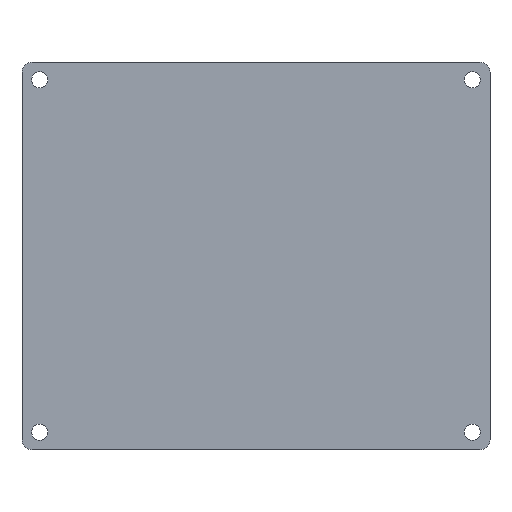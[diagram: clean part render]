
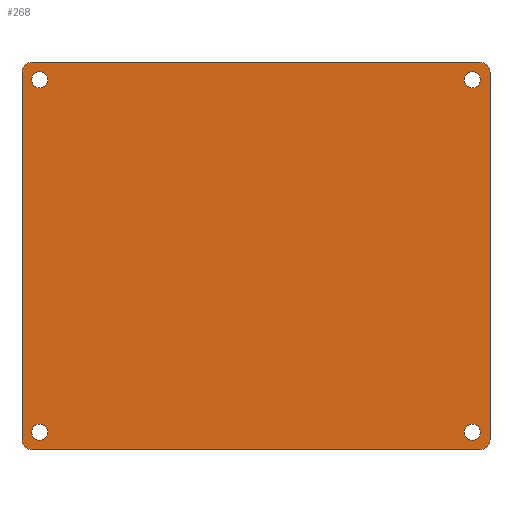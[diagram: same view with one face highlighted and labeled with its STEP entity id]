
A CAD part, front view. The second image highlights one B-rep face of the part: STEP entity #268.
In plain terms, the highlighted planar face has unit normal (0, -1, 0).
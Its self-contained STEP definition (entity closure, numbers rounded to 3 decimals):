
#122=FACE_BOUND('',#824,.T.);
#123=FACE_BOUND('',#825,.T.);
#124=FACE_BOUND('',#826,.T.);
#125=FACE_BOUND('',#827,.T.);
#126=FACE_BOUND('',#828,.T.);
#161=PLANE('',#4155);
#268=ADVANCED_FACE('NONE',(#122,#123,#124,#125,#126),#161,.T.);
#824=EDGE_LOOP('',(#1459,#1460));
#825=EDGE_LOOP('',(#1461,#1462));
#826=EDGE_LOOP('',(#1463,#1464));
#827=EDGE_LOOP('',(#1465,#1466));
#828=EDGE_LOOP('',(#1467,#1468,#1469,#1470,#1471,#1472,#1473,#1474));
#1055=CIRCLE('',#4089,1.6);
#1057=CIRCLE('',#4092,1.6);
#1059=CIRCLE('',#4095,1.6);
#1061=CIRCLE('',#4098,1.6);
#1095=CIRCLE('',#4147,1.6);
#1096=CIRCLE('',#4148,1.6);
#1097=CIRCLE('',#4149,1.6);
#1098=CIRCLE('',#4150,1.6);
#1099=CIRCLE('',#4151,2.);
#1100=CIRCLE('',#4152,2.);
#1101=CIRCLE('',#4153,2.);
#1102=CIRCLE('',#4154,2.);
#1459=ORIENTED_EDGE('',*,*,#2945,.T.);
#1460=ORIENTED_EDGE('',*,*,#2798,.T.);
#1461=ORIENTED_EDGE('',*,*,#2946,.T.);
#1462=ORIENTED_EDGE('',*,*,#2802,.T.);
#1463=ORIENTED_EDGE('',*,*,#2947,.T.);
#1464=ORIENTED_EDGE('',*,*,#2806,.T.);
#1465=ORIENTED_EDGE('',*,*,#2948,.T.);
#1466=ORIENTED_EDGE('',*,*,#2810,.T.);
#1467=ORIENTED_EDGE('',*,*,#2933,.F.);
#1468=ORIENTED_EDGE('',*,*,#2949,.T.);
#1469=ORIENTED_EDGE('',*,*,#2924,.F.);
#1470=ORIENTED_EDGE('',*,*,#2950,.T.);
#1471=ORIENTED_EDGE('',*,*,#2909,.F.);
#1472=ORIENTED_EDGE('',*,*,#2951,.T.);
#1473=ORIENTED_EDGE('',*,*,#2940,.F.);
#1474=ORIENTED_EDGE('',*,*,#2952,.T.);
#2421=VERTEX_POINT('',#5819);
#2422=VERTEX_POINT('',#5820);
#2425=VERTEX_POINT('',#5828);
#2426=VERTEX_POINT('',#5829);
#2429=VERTEX_POINT('',#5837);
#2430=VERTEX_POINT('',#5838);
#2433=VERTEX_POINT('',#5846);
#2434=VERTEX_POINT('',#5847);
#2521=VERTEX_POINT('',#6042);
#2522=VERTEX_POINT('',#6044);
#2531=VERTEX_POINT('',#6068);
#2532=VERTEX_POINT('',#6070);
#2539=VERTEX_POINT('',#6086);
#2540=VERTEX_POINT('',#6088);
#2545=VERTEX_POINT('',#6100);
#2546=VERTEX_POINT('',#6102);
#2798=EDGE_CURVE('NONE',#2421,#2422,#1055,.T.);
#2802=EDGE_CURVE('NONE',#2425,#2426,#1057,.T.);
#2806=EDGE_CURVE('NONE',#2429,#2430,#1059,.T.);
#2810=EDGE_CURVE('NONE',#2433,#2434,#1061,.T.);
#2909=EDGE_CURVE('NONE',#2521,#2522,#3433,.T.);
#2924=EDGE_CURVE('NONE',#2531,#2532,#3446,.T.);
#2933=EDGE_CURVE('NONE',#2539,#2540,#3455,.T.);
#2940=EDGE_CURVE('NONE',#2545,#2546,#3462,.T.);
#2945=EDGE_CURVE('NONE',#2422,#2421,#1095,.T.);
#2946=EDGE_CURVE('NONE',#2426,#2425,#1096,.T.);
#2947=EDGE_CURVE('NONE',#2430,#2429,#1097,.T.);
#2948=EDGE_CURVE('NONE',#2434,#2433,#1098,.T.);
#2949=EDGE_CURVE('NONE',#2539,#2532,#1099,.T.);
#2950=EDGE_CURVE('NONE',#2531,#2522,#1100,.T.);
#2951=EDGE_CURVE('NONE',#2521,#2546,#1101,.T.);
#2952=EDGE_CURVE('NONE',#2545,#2540,#1102,.T.);
#3433=LINE('',#6043,#3797);
#3446=LINE('',#6069,#3810);
#3455=LINE('',#6087,#3819);
#3462=LINE('',#6101,#3826);
#3797=VECTOR('',#4742,1.);
#3810=VECTOR('',#4761,1.);
#3819=VECTOR('',#4772,1.);
#3826=VECTOR('',#4781,1.);
#4089=AXIS2_PLACEMENT_3D('',#5818,#4567,#4568);
#4092=AXIS2_PLACEMENT_3D('',#5827,#4575,#4576);
#4095=AXIS2_PLACEMENT_3D('',#5836,#4583,#4584);
#4098=AXIS2_PLACEMENT_3D('',#5845,#4591,#4592);
#4147=AXIS2_PLACEMENT_3D('',#6111,#4790,#4791);
#4148=AXIS2_PLACEMENT_3D('',#6112,#4792,#4793);
#4149=AXIS2_PLACEMENT_3D('',#6113,#4794,#4795);
#4150=AXIS2_PLACEMENT_3D('',#6114,#4796,#4797);
#4151=AXIS2_PLACEMENT_3D('',#6115,#4798,#4799);
#4152=AXIS2_PLACEMENT_3D('',#6116,#4800,#4801);
#4153=AXIS2_PLACEMENT_3D('',#6117,#4802,#4803);
#4154=AXIS2_PLACEMENT_3D('',#6118,#4804,#4805);
#4155=AXIS2_PLACEMENT_3D('',#6119,#4806,#4807);
#4567=DIRECTION('',(0.,1.,0.));
#4568=DIRECTION('',(0.,0.,1.));
#4575=DIRECTION('',(0.,1.,0.));
#4576=DIRECTION('',(0.,0.,1.));
#4583=DIRECTION('',(0.,1.,0.));
#4584=DIRECTION('',(0.,0.,1.));
#4591=DIRECTION('',(0.,1.,0.));
#4592=DIRECTION('',(0.,0.,1.));
#4742=DIRECTION('',(0.,0.,-1.));
#4761=DIRECTION('',(-1.,0.,0.));
#4772=DIRECTION('',(0.,0.,1.));
#4781=DIRECTION('',(1.,0.,0.));
#4790=DIRECTION('',(0.,1.,0.));
#4791=DIRECTION('',(0.,0.,1.));
#4792=DIRECTION('',(0.,1.,0.));
#4793=DIRECTION('',(0.,0.,1.));
#4794=DIRECTION('',(0.,1.,0.));
#4795=DIRECTION('',(0.,0.,1.));
#4796=DIRECTION('',(0.,1.,0.));
#4797=DIRECTION('',(0.,0.,1.));
#4798=DIRECTION('',(0.,-1.,0.));
#4799=DIRECTION('',(0.,0.,-1.));
#4800=DIRECTION('',(0.,-1.,0.));
#4801=DIRECTION('',(0.,0.,-1.));
#4802=DIRECTION('',(0.,-1.,0.));
#4803=DIRECTION('',(0.,0.,-1.));
#4804=DIRECTION('',(0.,-1.,0.));
#4805=DIRECTION('',(0.,0.,-1.));
#4806=DIRECTION('',(0.,-1.,0.));
#4807=DIRECTION('',(0.,0.,-1.));
#5818=CARTESIAN_POINT('',(-43.,0.,-35.));
#5819=CARTESIAN_POINT('',(-43.,0.,-36.6));
#5820=CARTESIAN_POINT('',(-43.,0.,-33.4));
#5827=CARTESIAN_POINT('',(43.,0.,35.));
#5828=CARTESIAN_POINT('',(43.,0.,33.4));
#5829=CARTESIAN_POINT('',(43.,0.,36.6));
#5836=CARTESIAN_POINT('',(43.,0.,-35.));
#5837=CARTESIAN_POINT('',(43.,0.,-36.6));
#5838=CARTESIAN_POINT('',(43.,0.,-33.4));
#5845=CARTESIAN_POINT('',(-43.,0.,35.));
#5846=CARTESIAN_POINT('',(-43.,0.,33.4));
#5847=CARTESIAN_POINT('',(-43.,0.,36.6));
#6042=CARTESIAN_POINT('',(46.5,0.,36.5));
#6043=CARTESIAN_POINT('',(46.5,0.,38.5));
#6044=CARTESIAN_POINT('',(46.5,0.,-36.5));
#6068=CARTESIAN_POINT('',(44.5,0.,-38.5));
#6069=CARTESIAN_POINT('',(-46.5,0.,-38.5));
#6070=CARTESIAN_POINT('',(-44.5,0.,-38.5));
#6086=CARTESIAN_POINT('',(-46.5,0.,-36.5));
#6087=CARTESIAN_POINT('',(-46.5,0.,38.5));
#6088=CARTESIAN_POINT('',(-46.5,0.,36.5));
#6100=CARTESIAN_POINT('',(-44.5,0.,38.5));
#6101=CARTESIAN_POINT('',(-46.5,0.,38.5));
#6102=CARTESIAN_POINT('',(44.5,0.,38.5));
#6111=CARTESIAN_POINT('',(-43.,0.,-35.));
#6112=CARTESIAN_POINT('',(43.,0.,35.));
#6113=CARTESIAN_POINT('',(43.,0.,-35.));
#6114=CARTESIAN_POINT('',(-43.,0.,35.));
#6115=CARTESIAN_POINT('',(-44.5,0.,-36.5));
#6116=CARTESIAN_POINT('',(44.5,0.,-36.5));
#6117=CARTESIAN_POINT('',(44.5,0.,36.5));
#6118=CARTESIAN_POINT('',(-44.5,0.,36.5));
#6119=CARTESIAN_POINT('',(0.,0.,0.));
